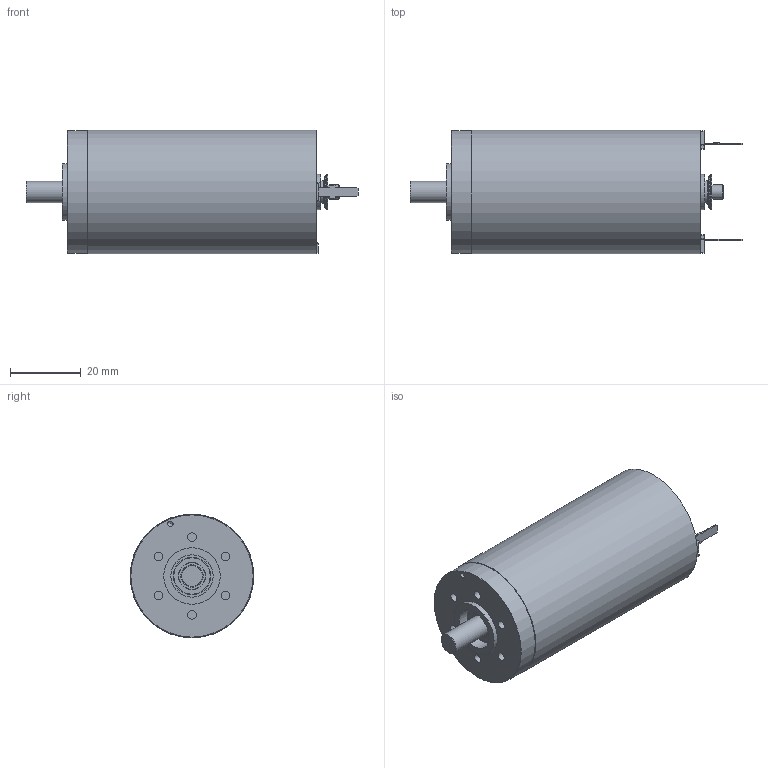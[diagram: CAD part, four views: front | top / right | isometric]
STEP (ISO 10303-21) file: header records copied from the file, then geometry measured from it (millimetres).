
FILE_DESCRIPTION(/* description */ (''),/* implementation_level */ '2;1');
FILE_NAME(/* name */ 'C:\Users\raffaele\Downloads\Projects\E&D\ipt-to-step-conversion\35DC70N-G.stp',/* time_stamp */ '2021-02-10T15:35:17+01:00',/* author */ ('AOM'),/* organization */ (''),/* preprocessor_version */ 'ST-DEVELOPER v18',/* originating_system */ 'Autodesk Inventor 2020',/* authorisation */ '');
FILE_SCHEMA (('AUTOMOTIVE_DESIGN { 1 0 10303 214 3 1 1 }'));
Length unit declared in the file: millimetre
Products named in the file (1): DCX 35 L - 35DC70N-G
Bounding box: 94 x 35 x 35 mm (x, y, z)
Volume: 28272.9 mm3; surface area: 22095.3 mm2
Topology: 12 solids, 13 shells, 486 faces, 1202 edges, 788 vertices
Faces by surface type: cylinder 230, plane 211, torus 18, bspline 18, cone 6, sphere 3
Full cylindrical faces by diameter (mm): 0.6 x3, 0.7 x2, 0.8 x2, 1.5 x1, 2.459 x6, 2.9 x2, 3.2 x2, 4 x4, 5.6 x2, 5.8 x2, 6 x4, 6.5 x1, 6.725 x2, 7.125 x2, 7.45 x2, 7.5 x2, 7.7 x2, 7.85 x2, 7.9 x2, 8.8 x1, 9.2 x1, 9.8 x1, 10 x2, 10.25 x2, 10.65 x2, 12 x1, 12.6 x2, 13 x2, 15 x2, 16 x1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
Entity records: 15844 total; most frequent: CARTESIAN_POINT 3282, DIRECTION 2638, ORIENTED_EDGE 2396, EDGE_CURVE 1198, AXIS2_PLACEMENT_3D 1003, VERTEX_POINT 788, LINE 632, VECTOR 632
